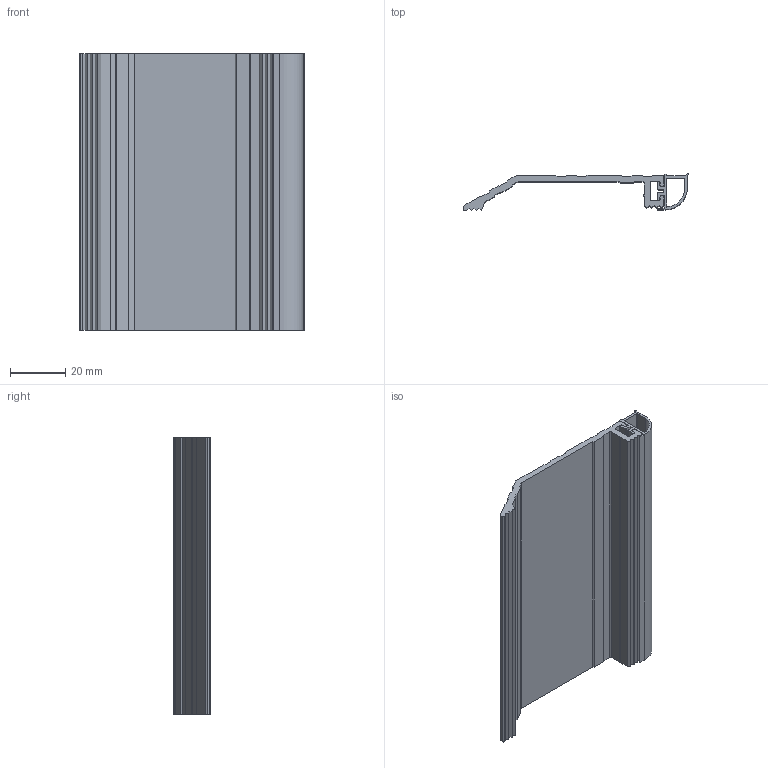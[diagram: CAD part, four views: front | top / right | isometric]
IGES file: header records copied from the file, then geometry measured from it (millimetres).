
Global section: file name: No Iges File Name specified; native system: Autodesk Inventor 2012; preprocessor: AutoDesk Inventor Iges Exporter R2012; author: anna.b; date: 20130718.075739; units: millimetre
Bounding box: 81.3 x 13.55 x 100 mm (x, y, z)
Volume: 25469.7 mm3; surface area: 29291.4 mm2
Topology: 2 solids, 2 shells, 126 faces, 366 edges, 244 vertices
Faces by surface type: plane 103, cylinder 15, revolution 8
